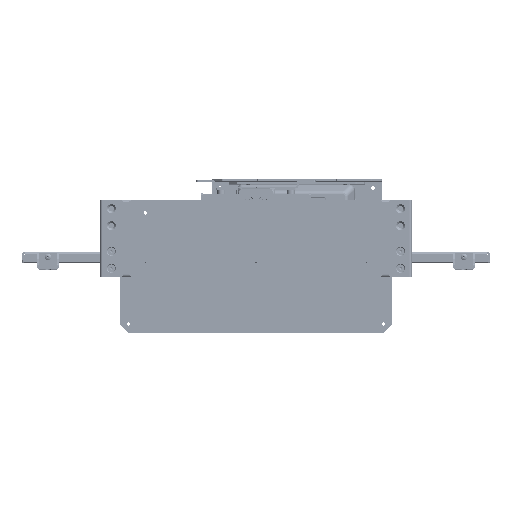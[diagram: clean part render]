
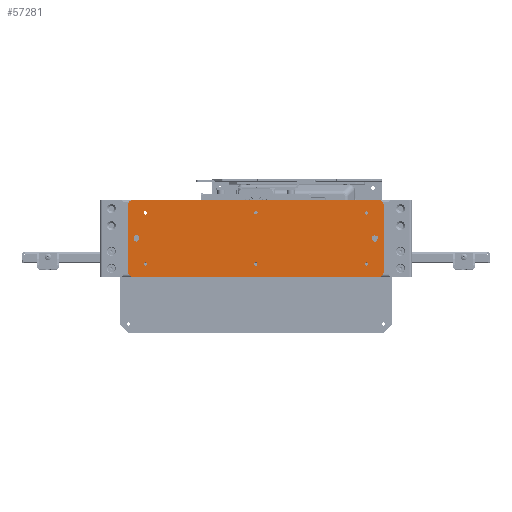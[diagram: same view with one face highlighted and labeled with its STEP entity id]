
A CAD part, top view. The second image highlights one B-rep face of the part: STEP entity #57281.
In plain terms, the highlighted planar face has unit normal (0, 0, 1) as drawn and (0, 0, -1) by its records, which use the part's own axes.
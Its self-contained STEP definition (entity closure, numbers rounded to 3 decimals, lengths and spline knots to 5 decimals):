
#5433=LINE('',#92124,#10725);
#5437=LINE('',#92133,#10729);
#5441=LINE('',#92142,#10733);
#5447=LINE('',#92166,#10739);
#10725=VECTOR('',#74734,1.);
#10729=VECTOR('',#74740,1.);
#10733=VECTOR('',#74746,1.);
#10739=VECTOR('',#74766,1.);
#20326=ORIENTED_EDGE('',*,*,#33303,.T.);
#20327=ORIENTED_EDGE('',*,*,#33304,.T.);
#20328=ORIENTED_EDGE('',*,*,#33305,.T.);
#20329=ORIENTED_EDGE('',*,*,#33306,.T.);
#20330=ORIENTED_EDGE('',*,*,#33307,.T.);
#20331=ORIENTED_EDGE('',*,*,#33308,.T.);
#20332=ORIENTED_EDGE('',*,*,#33286,.T.);
#20333=ORIENTED_EDGE('',*,*,#33288,.T.);
#20334=ORIENTED_EDGE('',*,*,#33291,.F.);
#20335=ORIENTED_EDGE('',*,*,#33309,.T.);
#20336=ORIENTED_EDGE('',*,*,#33281,.F.);
#20337=ORIENTED_EDGE('',*,*,#33310,.T.);
#20338=ORIENTED_EDGE('',*,*,#33277,.T.);
#20339=ORIENTED_EDGE('',*,*,#33311,.T.);
#20340=ORIENTED_EDGE('',*,*,#33273,.T.);
#20341=ORIENTED_EDGE('',*,*,#33312,.T.);
#33273=EDGE_CURVE('',#40322,#40323,#5433,.T.);
#33277=EDGE_CURVE('',#40326,#40327,#5437,.T.);
#33281=EDGE_CURVE('',#40330,#40331,#5441,.T.);
#33286=EDGE_CURVE('',#40335,#40335,#44432,.F.);
#33288=EDGE_CURVE('',#40337,#40337,#44434,.F.);
#33291=EDGE_CURVE('',#40340,#40341,#5447,.T.);
#33303=EDGE_CURVE('',#40348,#40348,#44445,.F.);
#33304=EDGE_CURVE('',#40349,#40349,#44446,.F.);
#33305=EDGE_CURVE('',#40350,#40350,#44447,.F.);
#33306=EDGE_CURVE('',#40351,#40351,#44448,.F.);
#33307=EDGE_CURVE('',#40352,#40352,#44449,.F.);
#33308=EDGE_CURVE('',#40353,#40353,#44450,.F.);
#33309=EDGE_CURVE('',#40340,#40331,#44451,.T.);
#33310=EDGE_CURVE('',#40330,#40326,#44452,.T.);
#33311=EDGE_CURVE('',#40327,#40322,#44453,.T.);
#33312=EDGE_CURVE('',#40323,#40341,#44454,.T.);
#40322=VERTEX_POINT('',#92125);
#40323=VERTEX_POINT('',#92126);
#40326=VERTEX_POINT('',#92134);
#40327=VERTEX_POINT('',#92135);
#40330=VERTEX_POINT('',#92143);
#40331=VERTEX_POINT('',#92144);
#40335=VERTEX_POINT('',#92154);
#40337=VERTEX_POINT('',#92159);
#40340=VERTEX_POINT('',#92165);
#40341=VERTEX_POINT('',#92167);
#40348=VERTEX_POINT('',#92188);
#40349=VERTEX_POINT('',#92190);
#40350=VERTEX_POINT('',#92192);
#40351=VERTEX_POINT('',#92194);
#40352=VERTEX_POINT('',#92196);
#40353=VERTEX_POINT('',#92198);
#44432=CIRCLE('',#64570,0.00396);
#44434=CIRCLE('',#64573,0.00396);
#44445=CIRCLE('',#64587,0.00246);
#44446=CIRCLE('',#64588,0.00246);
#44447=CIRCLE('',#64589,0.00246);
#44448=CIRCLE('',#64590,0.00246);
#44449=CIRCLE('',#64591,0.00246);
#44450=CIRCLE('',#64592,0.00246);
#44451=CIRCLE('',#64593,0.00635);
#44452=CIRCLE('',#64594,0.00635);
#44453=CIRCLE('',#64595,0.00635);
#44454=CIRCLE('',#64596,0.00635);
#47532=EDGE_LOOP('',(#20326));
#47533=EDGE_LOOP('',(#20327));
#47534=EDGE_LOOP('',(#20328));
#47535=EDGE_LOOP('',(#20329));
#47536=EDGE_LOOP('',(#20330));
#47537=EDGE_LOOP('',(#20331));
#47538=EDGE_LOOP('',(#20332));
#47539=EDGE_LOOP('',(#20333));
#47540=EDGE_LOOP('',(#20334,#20335,#20336,#20337,#20338,#20339,#20340,#20341));
#51711=FACE_BOUND('',#47532,.T.);
#51712=FACE_BOUND('',#47533,.T.);
#51713=FACE_BOUND('',#47534,.T.);
#51714=FACE_BOUND('',#47535,.T.);
#51715=FACE_BOUND('',#47536,.T.);
#51716=FACE_BOUND('',#47537,.T.);
#51717=FACE_BOUND('',#47538,.T.);
#51718=FACE_BOUND('',#47539,.T.);
#51719=FACE_BOUND('',#47540,.T.);
#54918=PLANE('',#64586);
#57281=ADVANCED_FACE('',(#51711,#51712,#51713,#51714,#51715,#51716,#51717,
#51718,#51719),#54918,.T.);
#64570=AXIS2_PLACEMENT_3D('',#92153,#74754,#74755);
#64573=AXIS2_PLACEMENT_3D('',#92158,#74760,#74761);
#64586=AXIS2_PLACEMENT_3D('',#92186,#74790,#74791);
#64587=AXIS2_PLACEMENT_3D('',#92187,#74792,#74793);
#64588=AXIS2_PLACEMENT_3D('',#92189,#74794,#74795);
#64589=AXIS2_PLACEMENT_3D('',#92191,#74796,#74797);
#64590=AXIS2_PLACEMENT_3D('',#92193,#74798,#74799);
#64591=AXIS2_PLACEMENT_3D('',#92195,#74800,#74801);
#64592=AXIS2_PLACEMENT_3D('',#92197,#74802,#74803);
#64593=AXIS2_PLACEMENT_3D('',#92199,#74804,#74805);
#64594=AXIS2_PLACEMENT_3D('',#92200,#74806,#74807);
#64595=AXIS2_PLACEMENT_3D('',#92201,#74808,#74809);
#64596=AXIS2_PLACEMENT_3D('',#92202,#74810,#74811);
#74734=DIRECTION('',(-1.,0.,0.));
#74740=DIRECTION('',(0.,-1.,0.));
#74746=DIRECTION('',(-1.,0.,0.));
#74754=DIRECTION('',(0.,0.,-1.));
#74755=DIRECTION('',(-1.,0.,0.));
#74760=DIRECTION('',(0.,0.,-1.));
#74761=DIRECTION('',(-1.,0.,0.));
#74766=DIRECTION('',(0.,-1.,0.));
#74790=DIRECTION('',(0.,0.,-1.));
#74791=DIRECTION('',(1.,0.,0.));
#74792=DIRECTION('',(0.,0.,-1.));
#74793=DIRECTION('',(-1.,0.,0.));
#74794=DIRECTION('',(0.,0.,-1.));
#74795=DIRECTION('',(-1.,0.,0.));
#74796=DIRECTION('',(0.,0.,-1.));
#74797=DIRECTION('',(-1.,0.,0.));
#74798=DIRECTION('',(0.,0.,-1.));
#74799=DIRECTION('',(-1.,0.,0.));
#74800=DIRECTION('',(0.,0.,-1.));
#74801=DIRECTION('',(-1.,0.,0.));
#74802=DIRECTION('',(0.,0.,-1.));
#74803=DIRECTION('',(-1.,0.,0.));
#74804=DIRECTION('',(0.,0.,-1.));
#74805=DIRECTION('',(-1.,0.,0.));
#74806=DIRECTION('',(0.,0.,-1.));
#74807=DIRECTION('',(-1.,0.,0.));
#74808=DIRECTION('',(0.,0.,-1.));
#74809=DIRECTION('',(-1.,0.,0.));
#74810=DIRECTION('',(0.,0.,-1.));
#74811=DIRECTION('',(-1.,0.,0.));
#92124=CARTESIAN_POINT('',(0.,-0.05715,-0.00229));
#92125=CARTESIAN_POINT('',(0.18415,-0.05715,-0.00229));
#92126=CARTESIAN_POINT('',(-0.18415,-0.05715,-0.00229));
#92133=CARTESIAN_POINT('',(0.1905,0.,-0.00229));
#92134=CARTESIAN_POINT('',(0.1905,0.0508,-0.00229));
#92135=CARTESIAN_POINT('',(0.1905,-0.0508,-0.00229));
#92142=CARTESIAN_POINT('',(0.,0.05715,-0.00229));
#92143=CARTESIAN_POINT('',(0.18415,0.05715,-0.00229));
#92144=CARTESIAN_POINT('',(-0.18415,0.05715,-0.00229));
#92153=CARTESIAN_POINT('',(-0.1778,0.,-0.00229));
#92154=CARTESIAN_POINT('',(-0.18176,0.,-0.00229));
#92158=CARTESIAN_POINT('',(0.1778,0.,-0.00229));
#92159=CARTESIAN_POINT('',(0.17384,0.,-0.00229));
#92165=CARTESIAN_POINT('',(-0.1905,0.0508,-0.00229));
#92166=CARTESIAN_POINT('',(-0.1905,0.,-0.00229));
#92167=CARTESIAN_POINT('',(-0.1905,-0.0508,-0.00229));
#92186=CARTESIAN_POINT('',(0.,0.,-0.00229));
#92187=CARTESIAN_POINT('',(-0.1651,0.0381,-0.00229));
#92188=CARTESIAN_POINT('',(-0.16756,0.0381,-0.00229));
#92189=CARTESIAN_POINT('',(0.,0.0381,-0.00229));
#92190=CARTESIAN_POINT('',(-0.00246,0.0381,-0.00229));
#92191=CARTESIAN_POINT('',(0.1651,0.0381,-0.00229));
#92192=CARTESIAN_POINT('',(0.16264,0.0381,-0.00229));
#92193=CARTESIAN_POINT('',(0.1651,-0.0381,-0.00229));
#92194=CARTESIAN_POINT('',(0.16264,-0.0381,-0.00229));
#92195=CARTESIAN_POINT('',(0.,-0.0381,-0.00229));
#92196=CARTESIAN_POINT('',(-0.00246,-0.0381,-0.00229));
#92197=CARTESIAN_POINT('',(-0.1651,-0.0381,-0.00229));
#92198=CARTESIAN_POINT('',(-0.16756,-0.0381,-0.00229));
#92199=CARTESIAN_POINT('',(-0.18415,0.0508,-0.00229));
#92200=CARTESIAN_POINT('',(0.18415,0.0508,-0.00229));
#92201=CARTESIAN_POINT('',(0.18415,-0.0508,-0.00229));
#92202=CARTESIAN_POINT('',(-0.18415,-0.0508,-0.00229));
